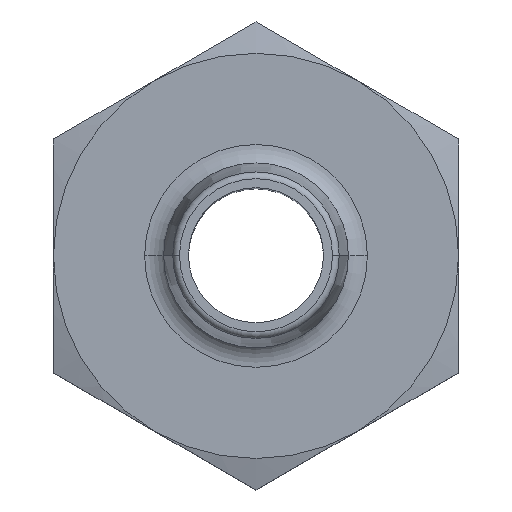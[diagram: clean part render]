
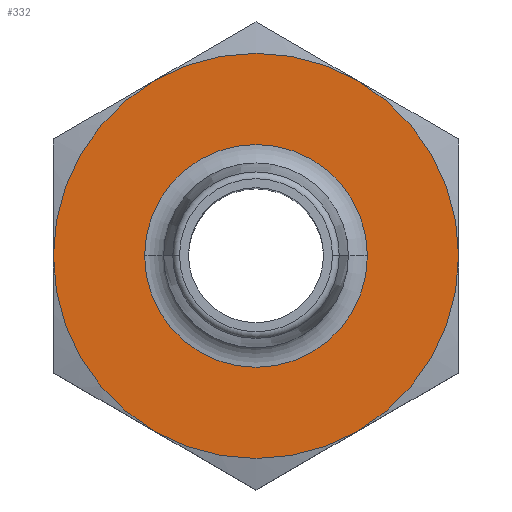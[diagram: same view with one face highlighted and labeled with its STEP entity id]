
A CAD part, top view. The second image highlights one B-rep face of the part: STEP entity #332.
In plain terms, the highlighted planar face has unit normal (0, 0, 1).
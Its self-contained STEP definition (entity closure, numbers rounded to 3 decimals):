
#37 = CIRCLE ( 'NONE', #1223, 12. ) ;
#54 = PLANE ( 'NONE',  #1181 ) ;
#60 = DIRECTION ( 'NONE',  ( 0., 0., -1. ) ) ;
#64 = EDGE_LOOP ( 'NONE', ( #318, #588 ) ) ;
#72 = VERTEX_POINT ( 'NONE', #323 ) ;
#73 = DIRECTION ( 'NONE',  ( -1., 0., 0. ) ) ;
#82 = CIRCLE ( 'NONE', #1280, 6.6 ) ;
#128 = VERTEX_POINT ( 'NONE', #557 ) ;
#136 = EDGE_CURVE ( 'NONE', #666, #1412, #258, .T. ) ;
#183 = CARTESIAN_POINT ( 'NONE',  ( 0., 5., 20. ) ) ;
#184 = CIRCLE ( 'NONE', #981, 12. ) ;
#196 = VERTEX_POINT ( 'NONE', #1061 ) ;
#258 = CIRCLE ( 'NONE', #430, 12. ) ;
#279 = EDGE_LOOP ( 'NONE', ( #1161, #1415, #622, #906, #395, #648 ) ) ;
#303 = DIRECTION ( 'NONE',  ( 1., 0., 0. ) ) ;
#318 = ORIENTED_EDGE ( 'NONE', *, *, #1285, .T. ) ;
#323 = CARTESIAN_POINT ( 'NONE',  ( -6.6, 0., 20. ) ) ;
#332 = ADVANCED_FACE ( 'NONE', ( #855, #1138 ), #54, .F. ) ;
#395 = ORIENTED_EDGE ( 'NONE', *, *, #498, .T. ) ;
#420 = CARTESIAN_POINT ( 'NONE',  ( 0., 0., 20. ) ) ;
#424 = DIRECTION ( 'NONE',  ( 0., 0., 1. ) ) ;
#430 = AXIS2_PLACEMENT_3D ( 'NONE', #1269, #1267, #1229 ) ;
#436 = DIRECTION ( 'NONE',  ( 1., 0., 0. ) ) ;
#437 = EDGE_CURVE ( 'NONE', #128, #196, #998, .T. ) ;
#455 = AXIS2_PLACEMENT_3D ( 'NONE', #420, #424, #436 ) ;
#471 = CARTESIAN_POINT ( 'NONE',  ( 0., 0., 20. ) ) ;
#475 = DIRECTION ( 'NONE',  ( 0., 0., 1. ) ) ;
#498 = EDGE_CURVE ( 'NONE', #196, #729, #934, .T. ) ;
#527 = EDGE_CURVE ( 'NONE', #729, #1357, #37, .T. ) ;
#532 = AXIS2_PLACEMENT_3D ( 'NONE', #471, #475, #303 ) ;
#535 = EDGE_CURVE ( 'NONE', #747, #72, #82, .T. ) ;
#557 = CARTESIAN_POINT ( 'NONE',  ( -12., 0., 20. ) ) ;
#585 = CARTESIAN_POINT ( 'NONE',  ( 0., 0., 20. ) ) ;
#588 = ORIENTED_EDGE ( 'NONE', *, *, #535, .T. ) ;
#589 = DIRECTION ( 'NONE',  ( 0., 0., 1. ) ) ;
#590 = DIRECTION ( 'NONE',  ( 1., 0., 0. ) ) ;
#598 = CIRCLE ( 'NONE', #665, 6.6 ) ;
#622 = ORIENTED_EDGE ( 'NONE', *, *, #1253, .T. ) ;
#648 = ORIENTED_EDGE ( 'NONE', *, *, #527, .T. ) ;
#657 = CARTESIAN_POINT ( 'NONE',  ( 0., 0., 20. ) ) ;
#665 = AXIS2_PLACEMENT_3D ( 'NONE', #1254, #1168, #1162 ) ;
#666 = VERTEX_POINT ( 'NONE', #1143 ) ;
#673 = DIRECTION ( 'NONE',  ( 0., 0., 1. ) ) ;
#685 = DIRECTION ( 'NONE',  ( 1., 0., 0. ) ) ;
#709 = DIRECTION ( 'NONE',  ( 0., 0., 1. ) ) ;
#717 = CARTESIAN_POINT ( 'NONE',  ( 0., 0., 20. ) ) ;
#723 = DIRECTION ( 'NONE',  ( 0., 0., -1. ) ) ;
#724 = DIRECTION ( 'NONE',  ( -1., 0., 0. ) ) ;
#729 = VERTEX_POINT ( 'NONE', #1246 ) ;
#747 = VERTEX_POINT ( 'NONE', #1342 ) ;
#781 = CARTESIAN_POINT ( 'NONE',  ( 0., 0., 20. ) ) ;
#826 = DIRECTION ( 'NONE',  ( 1., 0., 0. ) ) ;
#855 = FACE_BOUND ( 'NONE', #64, .T. ) ;
#906 = ORIENTED_EDGE ( 'NONE', *, *, #437, .T. ) ;
#934 = CIRCLE ( 'NONE', #1011, 12. ) ;
#945 = EDGE_CURVE ( 'NONE', #1357, #666, #184, .T. ) ;
#981 = AXIS2_PLACEMENT_3D ( 'NONE', #781, #709, #826 ) ;
#998 = CIRCLE ( 'NONE', #455, 12. ) ;
#1011 = AXIS2_PLACEMENT_3D ( 'NONE', #585, #589, #590 ) ;
#1047 = CARTESIAN_POINT ( 'NONE',  ( 12., 0., 20. ) ) ;
#1061 = CARTESIAN_POINT ( 'NONE',  ( -6., -10.392, 20. ) ) ;
#1138 = FACE_OUTER_BOUND ( 'NONE', #279, .T. ) ;
#1143 = CARTESIAN_POINT ( 'NONE',  ( 6., 10.392, 20. ) ) ;
#1149 = CARTESIAN_POINT ( 'NONE',  ( -6., 10.392, 20. ) ) ;
#1161 = ORIENTED_EDGE ( 'NONE', *, *, #945, .T. ) ;
#1162 = DIRECTION ( 'NONE',  ( -1., 0., 0. ) ) ;
#1168 = DIRECTION ( 'NONE',  ( 0., 0., -1. ) ) ;
#1181 = AXIS2_PLACEMENT_3D ( 'NONE', #183, #60, #73 ) ;
#1223 = AXIS2_PLACEMENT_3D ( 'NONE', #657, #673, #685 ) ;
#1229 = DIRECTION ( 'NONE',  ( 1., 0., 0. ) ) ;
#1246 = CARTESIAN_POINT ( 'NONE',  ( 6., -10.392, 20. ) ) ;
#1253 = EDGE_CURVE ( 'NONE', #1412, #128, #1424, .T. ) ;
#1254 = CARTESIAN_POINT ( 'NONE',  ( 0., 0., 20. ) ) ;
#1267 = DIRECTION ( 'NONE',  ( 0., 0., 1. ) ) ;
#1269 = CARTESIAN_POINT ( 'NONE',  ( 0., 0., 20. ) ) ;
#1280 = AXIS2_PLACEMENT_3D ( 'NONE', #717, #723, #724 ) ;
#1285 = EDGE_CURVE ( 'NONE', #72, #747, #598, .T. ) ;
#1342 = CARTESIAN_POINT ( 'NONE',  ( 6.6, 0., 20. ) ) ;
#1357 = VERTEX_POINT ( 'NONE', #1047 ) ;
#1412 = VERTEX_POINT ( 'NONE', #1149 ) ;
#1415 = ORIENTED_EDGE ( 'NONE', *, *, #136, .T. ) ;
#1424 = CIRCLE ( 'NONE', #532, 12. ) ;
